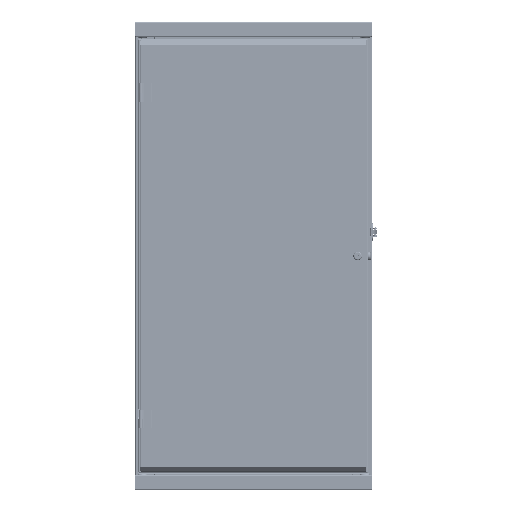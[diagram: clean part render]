
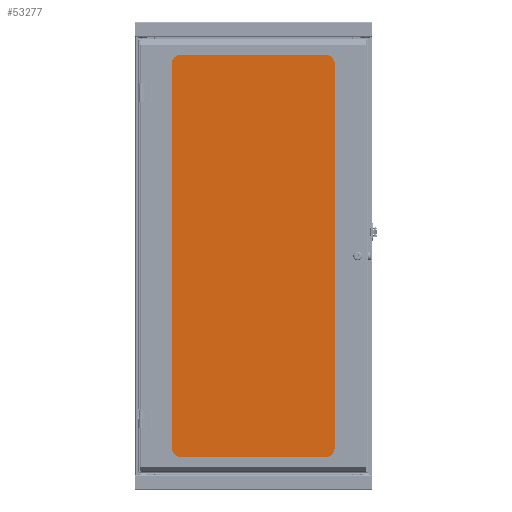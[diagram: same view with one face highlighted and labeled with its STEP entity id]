
A CAD part, front view. The second image highlights one B-rep face of the part: STEP entity #53277.
In plain terms, the highlighted planar face has unit normal (0, -1, 0).
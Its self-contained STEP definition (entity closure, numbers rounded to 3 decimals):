
#4295=LINE('',#89969,#9113);
#4299=LINE('',#89978,#9117);
#4302=LINE('',#89984,#9120);
#4305=LINE('',#89990,#9123);
#9113=VECTOR('',#71404,1000.);
#9117=VECTOR('',#71410,1000.);
#9120=VECTOR('',#71415,1000.);
#9123=VECTOR('',#71420,1000.);
#23452=ORIENTED_EDGE('',*,*,#32382,.T.);
#23453=ORIENTED_EDGE('',*,*,#32386,.T.);
#23454=ORIENTED_EDGE('',*,*,#32389,.T.);
#23455=ORIENTED_EDGE('',*,*,#32392,.T.);
#32382=EDGE_CURVE('',#37937,#37938,#4295,.T.);
#32386=EDGE_CURVE('',#37938,#37941,#4299,.T.);
#32389=EDGE_CURVE('',#37941,#37943,#4302,.T.);
#32392=EDGE_CURVE('',#37943,#37937,#4305,.T.);
#37937=VERTEX_POINT('',#89970);
#37938=VERTEX_POINT('',#89971);
#37941=VERTEX_POINT('',#89979);
#37943=VERTEX_POINT('',#89985);
#44544=EDGE_LOOP('',(#23452,#23453,#23454,#23455));
#48631=FACE_BOUND('',#44544,.T.);
#50642=PLANE('',#58350);
#53277=ADVANCED_FACE('',(#48631),#50642,.T.);
#58350=AXIS2_PLACEMENT_3D('',#89993,#71424,#71425);
#71404=DIRECTION('',(0.,0.,-1.));
#71410=DIRECTION('',(1.,0.,0.));
#71415=DIRECTION('',(0.,0.,1.));
#71420=DIRECTION('',(-1.,0.,0.));
#71424=DIRECTION('',(0.,-1.,0.));
#71425=DIRECTION('',(0.,0.,-1.));
#89969=CARTESIAN_POINT('',(-228.6,0.,552.45));
#89970=CARTESIAN_POINT('',(-228.6,0.,552.45));
#89971=CARTESIAN_POINT('',(-228.6,0.,-552.45));
#89978=CARTESIAN_POINT('',(-228.6,0.,-552.45));
#89979=CARTESIAN_POINT('',(228.6,0.,-552.45));
#89984=CARTESIAN_POINT('',(228.6,0.,-552.45));
#89985=CARTESIAN_POINT('',(228.6,0.,552.45));
#89990=CARTESIAN_POINT('',(228.6,0.,552.45));
#89993=CARTESIAN_POINT('',(-228.6,0.,-552.45));
